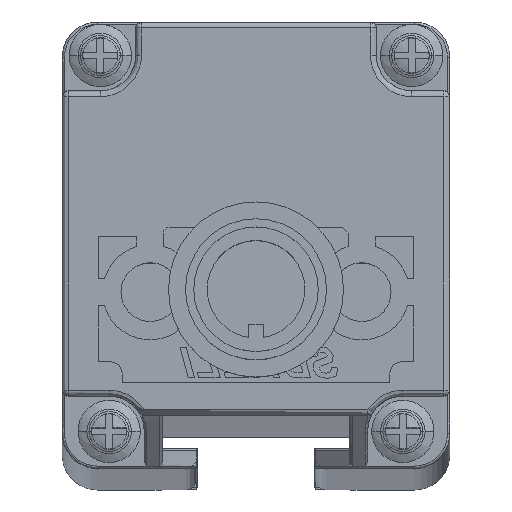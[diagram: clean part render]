
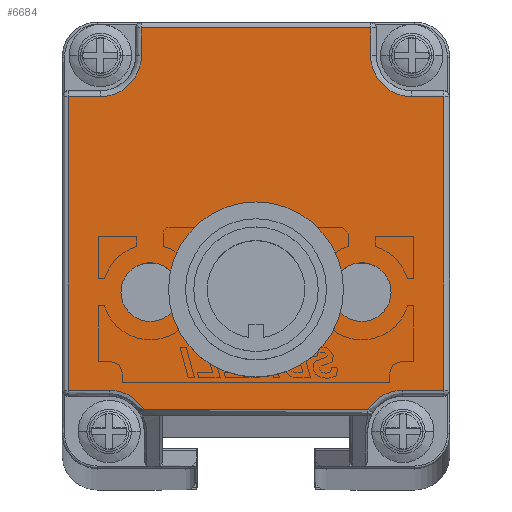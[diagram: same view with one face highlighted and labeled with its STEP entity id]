
A CAD part, top view. The second image highlights one B-rep face of the part: STEP entity #6684.
In plain terms, the highlighted planar face has unit normal (0, 0, 1).
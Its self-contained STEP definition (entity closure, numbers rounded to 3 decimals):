
#2629=CARTESIAN_POINT('',(0.65,-8.054,
925.276));
#2630=DIRECTION('',(0.,0.,1.));
#2631=DIRECTION('',(1.,0.,0.));
#2632=AXIS2_PLACEMENT_3D('',#2629,#2630,#2631);
#2634=CARTESIAN_POINT('',(0.65,-8.054,
925.276));
#2635=DIRECTION('',(0.,0.,1.));
#2636=DIRECTION('',(-1.,0.,0.));
#2637=AXIS2_PLACEMENT_3D('',#2634,#2635,#2636);
#2639=CARTESIAN_POINT('',(9.65,-8.055,925.276));
#2640=DIRECTION('',(0.,0.,1.));
#2641=DIRECTION('',(1.,-0.007,0.));
#2642=AXIS2_PLACEMENT_3D('',#2639,#2640,#2641);
#2644=CARTESIAN_POINT('',(9.65,-8.055,925.276));
#2645=DIRECTION('',(0.,0.,1.));
#2646=DIRECTION('',(-1.,0.007,0.));
#2647=AXIS2_PLACEMENT_3D('',#2644,#2645,#2646);
#2649=CARTESIAN_POINT('',(-8.35,-8.054,
925.276));
#2650=DIRECTION('',(0.,0.,1.));
#2651=DIRECTION('',(1.,0.007,0.));
#2652=AXIS2_PLACEMENT_3D('',#2649,#2650,#2651);
#2654=CARTESIAN_POINT('',(-8.35,-8.054,
925.276));
#2655=DIRECTION('',(0.,0.,1.));
#2656=DIRECTION('',(-1.,-0.007,0.));
#2657=AXIS2_PLACEMENT_3D('',#2654,#2655,#2656);
#2659=CARTESIAN_POINT('',(-11.85,-19.904,
925.276));
#2660=DIRECTION('',(0.,0.,1.));
#2661=DIRECTION('',(0.849,0.528,0.));
#2662=AXIS2_PLACEMENT_3D('',#2659,#2660,#2661);
#2664=CARTESIAN_POINT('',(-12.6,12.094,925.276));
#2665=DIRECTION('',(0.,0.,1.));
#2666=DIRECTION('',(0.,-1.,0.));
#2667=AXIS2_PLACEMENT_3D('',#2664,#2665,#2666);
#2669=CARTESIAN_POINT('',(13.9,12.094,925.276));
#2670=DIRECTION('',(0.,0.,1.));
#2671=DIRECTION('',(-1.,0.,0.));
#2672=AXIS2_PLACEMENT_3D('',#2669,#2670,#2671);
#2674=CARTESIAN_POINT('',(13.15,-19.904,925.276));
#2675=DIRECTION('',(0.,0.,1.));
#2676=DIRECTION('',(0.,1.,0.));
#2677=AXIS2_PLACEMENT_3D('',#2674,#2675,#2676);
#4239=DIRECTION('',(1.,0.,0.));
#4240=VECTOR('',#4239,19.056);
#4241=CARTESIAN_POINT('',(-8.878,-18.056,
925.276));
#4242=LINE('',#4241,#4240);
#4519=DIRECTION('',(1.,0.,0.));
#4520=VECTOR('',#4519,3.5);
#4521=CARTESIAN_POINT('',(13.15,-16.404,925.276));
#4522=LINE('',#4521,#4520);
#5176=DIRECTION('',(0.,1.,0.));
#5177=VECTOR('',#5176,2.35);
#5178=CARTESIAN_POINT('',(10.4,12.094,925.276));
#5179=LINE('',#5178,#5177);
#5199=DIRECTION('',(-1.,0.,0.));
#5200=VECTOR('',#5199,19.5);
#5201=CARTESIAN_POINT('',(10.4,14.444,925.276));
#5202=LINE('',#5201,#5200);
#5223=DIRECTION('',(0.,-1.,0.));
#5224=VECTOR('',#5223,2.35);
#5225=CARTESIAN_POINT('',(-9.1,14.444,925.276));
#5226=LINE('',#5225,#5224);
#5250=DIRECTION('',(-1.,0.,0.));
#5251=VECTOR('',#5250,2.75);
#5252=CARTESIAN_POINT('',(-12.6,8.594,925.276));
#5253=LINE('',#5252,#5251);
#5281=DIRECTION('',(0.,-1.,0.));
#5282=VECTOR('',#5281,24.998);
#5283=CARTESIAN_POINT('',(-15.35,8.594,925.276));
#5284=LINE('',#5283,#5282);
#5305=DIRECTION('',(1.,0.,0.));
#5306=VECTOR('',#5305,3.5);
#5307=CARTESIAN_POINT('',(-15.35,-16.404,
925.276));
#5308=LINE('',#5307,#5306);
#5369=DIRECTION('',(-1.,0.,0.));
#5370=VECTOR('',#5369,2.75);
#5371=CARTESIAN_POINT('',(16.65,8.594,925.276));
#5372=LINE('',#5371,#5370);
#5428=DIRECTION('',(0.,1.,0.));
#5429=VECTOR('',#5428,24.998);
#5430=CARTESIAN_POINT('',(16.65,-16.404,925.276));
#5431=LINE('',#5430,#5429);
#5775=CARTESIAN_POINT('',(12.15,-8.072,925.276));
#5776=VERTEX_POINT('',#5775);
#5777=CARTESIAN_POINT('',(7.15,-8.039,925.276));
#5778=VERTEX_POINT('',#5777);
#5779=CARTESIAN_POINT('',(-8.878,-18.056,
925.276));
#5780=CARTESIAN_POINT('',(-11.85,-16.404,
925.276));
#5781=VERTEX_POINT('',#5779);
#5782=VERTEX_POINT('',#5780);
#5783=CARTESIAN_POINT('',(-15.35,-16.404,
925.276));
#5784=VERTEX_POINT('',#5783);
#5785=CARTESIAN_POINT('',(-15.35,8.594,925.276));
#5786=VERTEX_POINT('',#5785);
#5787=CARTESIAN_POINT('',(-12.6,8.594,925.276));
#5788=VERTEX_POINT('',#5787);
#5789=CARTESIAN_POINT('',(-9.1,12.094,925.276));
#5790=VERTEX_POINT('',#5789);
#5791=CARTESIAN_POINT('',(-9.1,14.444,925.276));
#5792=VERTEX_POINT('',#5791);
#5793=CARTESIAN_POINT('',(10.4,14.444,925.276));
#5794=VERTEX_POINT('',#5793);
#5795=CARTESIAN_POINT('',(10.4,12.094,925.276));
#5796=VERTEX_POINT('',#5795);
#5797=CARTESIAN_POINT('',(13.9,8.594,925.276));
#5798=VERTEX_POINT('',#5797);
#5799=CARTESIAN_POINT('',(16.65,8.594,925.276));
#5800=VERTEX_POINT('',#5799);
#5801=CARTESIAN_POINT('',(16.65,-16.404,925.276));
#5802=VERTEX_POINT('',#5801);
#5803=CARTESIAN_POINT('',(13.15,-16.404,925.276));
#5804=VERTEX_POINT('',#5803);
#5805=CARTESIAN_POINT('',(10.178,-18.056,925.276));
#5806=VERTEX_POINT('',#5805);
#5807=CARTESIAN_POINT('',(-5.85,-8.037,
925.276));
#5808=CARTESIAN_POINT('',(-10.85,-8.07,
925.276));
#5809=VERTEX_POINT('',#5807);
#5810=VERTEX_POINT('',#5808);
#5811=CARTESIAN_POINT('',(3.65,-8.054,925.276));
#5812=CARTESIAN_POINT('',(-2.35,-8.054,
925.276));
#5813=VERTEX_POINT('',#5811);
#5814=VERTEX_POINT('',#5812);
#6633=CARTESIAN_POINT('',(0.65,0.944,
925.276));
#6634=DIRECTION('',(0.,0.,1.));
#6635=DIRECTION('',(1.,0.,0.));
#6636=AXIS2_PLACEMENT_3D('',#6633,#6634,#6635);
#6637=PLANE('',#6636);
#6639=ORIENTED_EDGE('',*,*,#6638,.T.);
#6641=ORIENTED_EDGE('',*,*,#6640,.F.);
#6643=ORIENTED_EDGE('',*,*,#6642,.F.);
#6645=ORIENTED_EDGE('',*,*,#6644,.F.);
#6647=ORIENTED_EDGE('',*,*,#6646,.T.);
#6649=ORIENTED_EDGE('',*,*,#6648,.F.);
#6651=ORIENTED_EDGE('',*,*,#6650,.F.);
#6653=ORIENTED_EDGE('',*,*,#6652,.F.);
#6655=ORIENTED_EDGE('',*,*,#6654,.T.);
#6657=ORIENTED_EDGE('',*,*,#6656,.F.);
#6659=ORIENTED_EDGE('',*,*,#6658,.F.);
#6661=ORIENTED_EDGE('',*,*,#6660,.F.);
#6663=ORIENTED_EDGE('',*,*,#6662,.T.);
#6665=ORIENTED_EDGE('',*,*,#6664,.F.);
#6666=EDGE_LOOP('',(#6639,#6641,#6643,#6645,#6647,#6649,#6651,#6653,#6655,#6657,
#6659,#6661,#6663,#6665));
#6667=FACE_OUTER_BOUND('',#6666,.F.);
#6668=ORIENTED_EDGE('',*,*,#6620,.T.);
#6669=ORIENTED_EDGE('',*,*,#6581,.T.);
#6670=EDGE_LOOP('',(#6668,#6669));
#6671=FACE_BOUND('',#6670,.F.);
#6673=ORIENTED_EDGE('',*,*,#6672,.T.);
#6675=ORIENTED_EDGE('',*,*,#6674,.T.);
#6676=EDGE_LOOP('',(#6673,#6675));
#6677=FACE_BOUND('',#6676,.F.);
#6679=ORIENTED_EDGE('',*,*,#6678,.T.);
#6681=ORIENTED_EDGE('',*,*,#6680,.T.);
#6682=EDGE_LOOP('',(#6679,#6681));
#6683=FACE_BOUND('',#6682,.F.);
#2633=CIRCLE('',#2632,3.);
#2638=CIRCLE('',#2637,3.);
#2643=CIRCLE('',#2642,2.5);
#2648=CIRCLE('',#2647,2.5);
#2653=CIRCLE('',#2652,2.5);
#2658=CIRCLE('',#2657,2.5);
#2663=CIRCLE('',#2662,3.5);
#2668=CIRCLE('',#2667,3.5);
#2673=CIRCLE('',#2672,3.5);
#2678=CIRCLE('',#2677,3.5);
#6581=EDGE_CURVE('',#5778,#5776,#2648,.T.);
#6620=EDGE_CURVE('',#5776,#5778,#2643,.T.);
#6638=EDGE_CURVE('',#5781,#5782,#2663,.T.);
#6640=EDGE_CURVE('',#5784,#5782,#5308,.T.);
#6642=EDGE_CURVE('',#5786,#5784,#5284,.T.);
#6644=EDGE_CURVE('',#5788,#5786,#5253,.T.);
#6646=EDGE_CURVE('',#5788,#5790,#2668,.T.);
#6648=EDGE_CURVE('',#5792,#5790,#5226,.T.);
#6650=EDGE_CURVE('',#5794,#5792,#5202,.T.);
#6652=EDGE_CURVE('',#5796,#5794,#5179,.T.);
#6654=EDGE_CURVE('',#5796,#5798,#2673,.T.);
#6656=EDGE_CURVE('',#5800,#5798,#5372,.T.);
#6658=EDGE_CURVE('',#5802,#5800,#5431,.T.);
#6660=EDGE_CURVE('',#5804,#5802,#4522,.T.);
#6662=EDGE_CURVE('',#5804,#5806,#2678,.T.);
#6664=EDGE_CURVE('',#5781,#5806,#4242,.T.);
#6672=EDGE_CURVE('',#5809,#5810,#2653,.T.);
#6674=EDGE_CURVE('',#5810,#5809,#2658,.T.);
#6678=EDGE_CURVE('',#5813,#5814,#2633,.T.);
#6680=EDGE_CURVE('',#5814,#5813,#2638,.T.);
#6684=ADVANCED_FACE('',(#6667,#6671,#6677,#6683),#6637,.T.);
